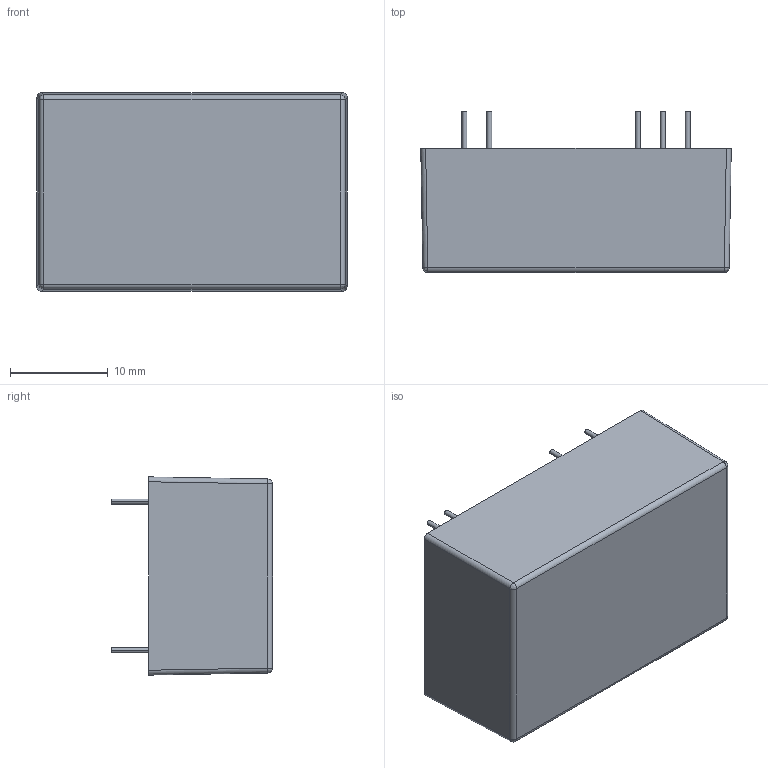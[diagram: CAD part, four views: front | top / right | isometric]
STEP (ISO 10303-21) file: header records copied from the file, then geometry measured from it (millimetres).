
FILE_DESCRIPTION (( 'STEP AP214' ), '1' );
FILE_NAME ('JHM10.STEP', '2016-09-08T14:10:35', ( '' ), ( '' ), 'SwSTEP 2.0', 'SolidWorks 2016', '' );
FILE_SCHEMA (( 'AUTOMOTIVE_DESIGN' ));
Length unit declared in the file: inch
Products named in the file (6): JHM10 case; JHM10 base; JHM10 pin and board; pin; bump; JHM10
Assembly tree (13 placements, depth 3):
  JHM10
    JHM10 pin and board
      bump
      pin  x9
    JHM10 base
    JHM10 case
Bounding box: 31.8 x 16.5 x 20.3 mm (x, y, z)
Volume: 7967.9 mm3; surface area: 7087 mm2
Topology: 12 solids, 12 shells, 329 faces, 848 edges, 556 vertices
Faces by surface type: plane 176, cylinder 122, bspline 31
Entity records: 15624 total; most frequent: CARTESIAN_POINT 4024, ORIENTED_EDGE 1600, DIRECTION 1485, EDGE_CURVE 800, LINE 539, VECTOR 539, VERTEX_POINT 524, AXIS2_PLACEMENT_3D 473
